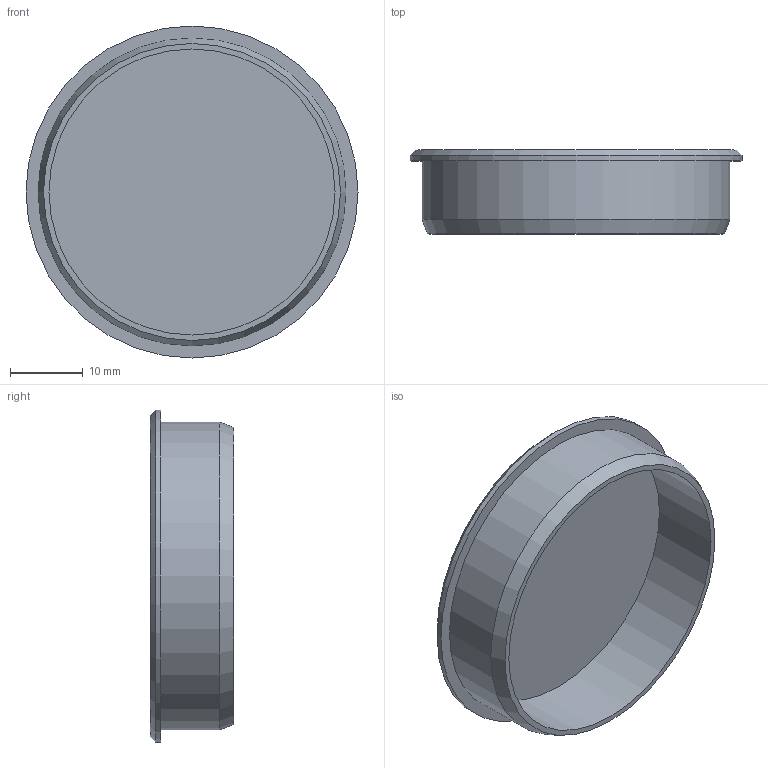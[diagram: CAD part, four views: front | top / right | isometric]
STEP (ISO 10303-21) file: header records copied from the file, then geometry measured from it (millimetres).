
FILE_DESCRIPTION(/* description */ (''),/* implementation_level */ '2;1');
FILE_NAME(/* name */ 'PokemonDrawers v2-middle3.step',/* time_stamp */ '2024-06-12T21:52:01+02:00',/* author */ (''),/* organization */ (''),/* preprocessor_version */ 'ST-DEVELOPER v20',/* originating_system */ 'Autodesk Translation Framework v13.14.0.145',/* authorisation */ '');
FILE_SCHEMA (('AUTOMOTIVE_DESIGN { 1 0 10303 214 3 1 1 }'));
Length unit declared in the file: millimetre
Products named in the file (2): PokemonDrawers; Component8
Assembly tree (1 placements, depth 2):
  PokemonDrawers
    Component8
Bounding box: 45.5 x 11.5 x 45.5 mm (x, y, z)
Volume: 4218.9 mm3; surface area: 5875.4 mm2
Topology: 1 solids, 1 shells, 9 faces, 13 edges, 8 vertices
Faces by surface type: plane 4, cylinder 3, cone 2
Full cylindrical faces by diameter (mm): 39.2 x1, 42.2 x1, 45.5 x1
Entity records: 252 total; most frequent: DIRECTION 45, CARTESIAN_POINT 33, ORIENTED_EDGE 26, AXIS2_PLACEMENT_3D 20, EDGE_CURVE 13, EDGE_LOOP 11, FACE_OUTER_BOUND 9, ADVANCED_FACE 9
